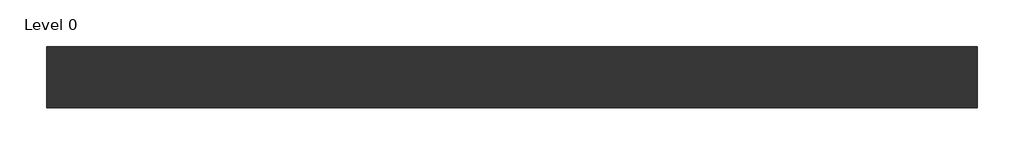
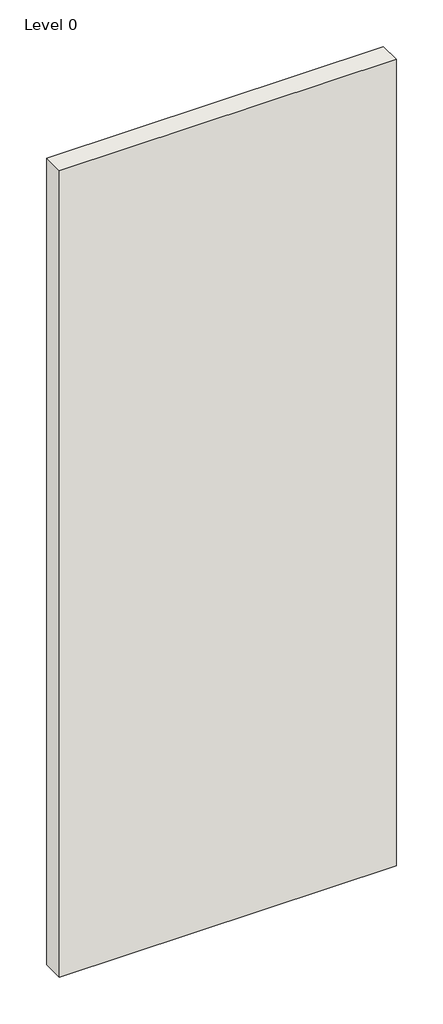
# One storey: 1 wall.
"""IFC4 building model written with IfcOpenShell, lengths in millimetres."""

from ifc_helpers import new_model, si_unit, origin, origin_with_axes, place, context, project, spatial, polyline, outline, extrude, element, save

model = new_model("IFC4")

# Units and contexts
model_context = context("Model", 3, world=origin())
ifc_project = project(units=[si_unit("LENGTHUNIT", "METRE", prefix="MILLI")], contexts=[model_context])

# Site, building, storey
site = spatial("IfcSite", under=ifc_project)
building = spatial("IfcBuilding", under=site)
storey = spatial("IfcBuildingStorey", under=building, Name="Level 0", Elevation=0.0)

# Wall
placement = place(None, origin())
element("IfcWall", 1, ObjectType="A206027 - GypWall CLASSIC", at=placement, inside=storey, context=model_context, shape_type="SweptSolid", body=[
    extrude(outline(polyline([(2116.0807354, 494.7205641), (-883.9192646, 494.7205641), (-883.9192646, 692.7205641), (2116.0807354, 692.7205641), (2116.0807354, 494.7205641)])), origin_with_axes(), (0.0, 0.0, 1.0), 7600.0),
])

save(model, "model.ifc")
